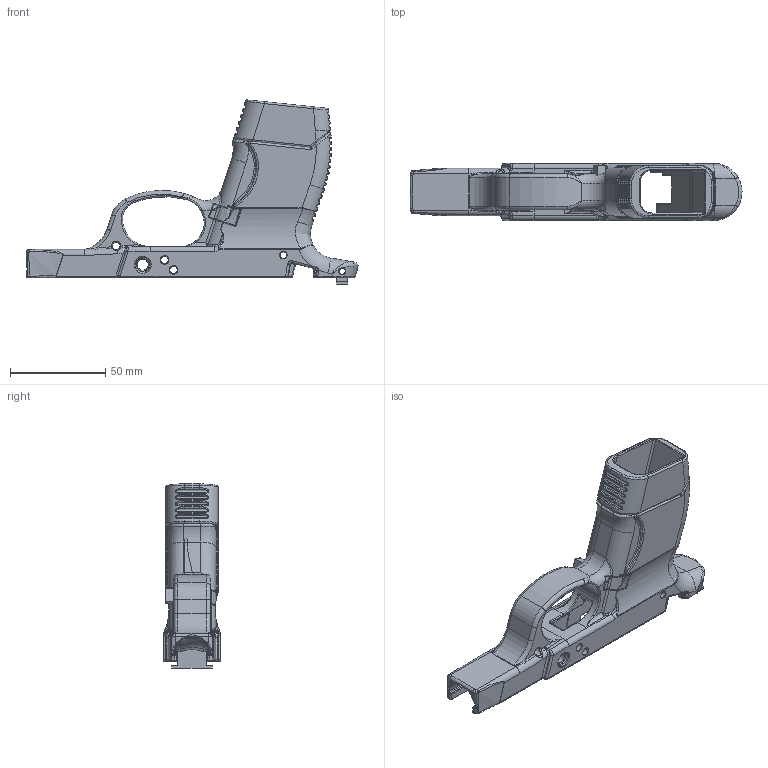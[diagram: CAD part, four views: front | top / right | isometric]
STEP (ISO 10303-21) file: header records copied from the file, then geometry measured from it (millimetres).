
FILE_DESCRIPTION(/* description */ (''),/* implementation_level */ '2;1');
FILE_NAME(/* name */ '/Users/tyler/Desktop/SR9CPackage/STEP/SR9SC.step',/* time_stamp */ '2019-11-17T18:05:57-05:00',/* author */ (''),/* organization */ (''),/* preprocessor_version */ 'ST-DEVELOPER v18',/* originating_system */ 'Autodesk Translation Framework v8.12.0.6',/* authorisation */ '');
FILE_SCHEMA (('AUTOMOTIVE_DESIGN { 1 0 10303 214 3 1 1 }'));
Products named in the file (4): SR9C G26 GRIP LENGTH; Mag Catch SR9; SR9 Rear Rail; G19 Mag Grip
Assembly tree (3 placements, depth 2):
  SR9C G26 GRIP LENGTH
    Mag Catch SR9
    SR9 Rear Rail
    G19 Mag Grip
Bounding box: 174.67 x 30 x 96.93 mm (x, y, z)
Volume: 71777.7 mm3; surface area: 44894.7 mm2
Topology: 7 solids, 7 shells, 1704 faces, 4048 edges, 2262 vertices
Faces by surface type: bspline 596, cylinder 573, plane 255, torus 207, sphere 44, cone 29
Full cylindrical faces by diameter (mm): 3.175 x3, 3.5 x1, 4 x6, 4.36 x1, 5.8 x2, 8 x1
Entity records: 66985 total; most frequent: CARTESIAN_POINT 30486, ORIENTED_EDGE 7938, DIRECTION 7192, EDGE_CURVE 3969, AXIS2_PLACEMENT_3D 2972, VERTEX_POINT 2264, EDGE_LOOP 1727, FACE_OUTER_BOUND 1704
